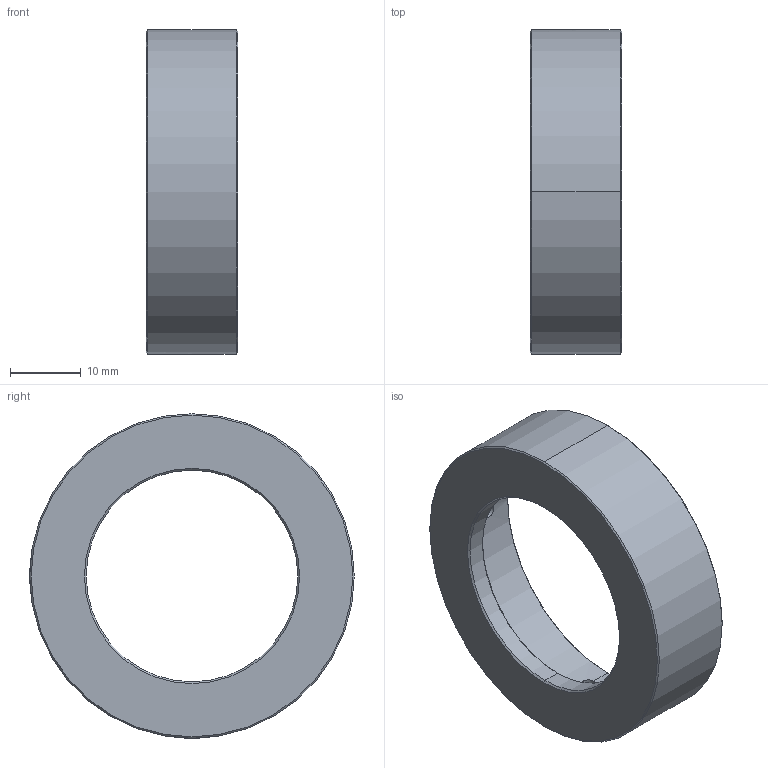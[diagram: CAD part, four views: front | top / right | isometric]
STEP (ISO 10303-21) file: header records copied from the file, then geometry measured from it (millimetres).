
FILE_DESCRIPTION (( 'STEP AP203' ), '1' );
FILE_NAME ('SV-FAD40-305.STEP', '2020-07-29T01:16:49', ( '' ), ( '' ), 'SwSTEP 2.0', 'SolidWorks 2020', '' );
FILE_SCHEMA (( 'CONFIG_CONTROL_DESIGN' ));
Length unit declared in the file: millimetre
Products named in the file (1): SV-FAD40-305
Bounding box: 13 x 46 x 46 mm (x, y, z)
Volume: 6884.7 mm3; surface area: 5277.2 mm2
Topology: 1 solids, 1 shells, 23 faces, 56 edges, 34 vertices
Faces by surface type: cylinder 10, cone 10, plane 3
Entity records: 869 total; most frequent: CARTESIAN_POINT 246, DIRECTION 114, ORIENTED_EDGE 112, EDGE_CURVE 56, AXIS2_PLACEMENT_3D 46, VERTEX_POINT 34, EDGE_LOOP 28, ADVANCED_FACE 23
